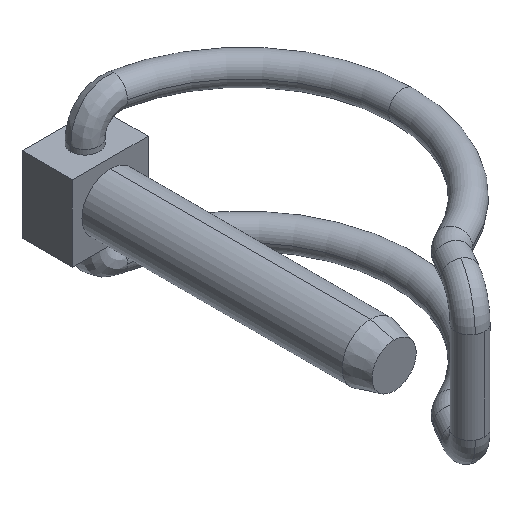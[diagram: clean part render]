
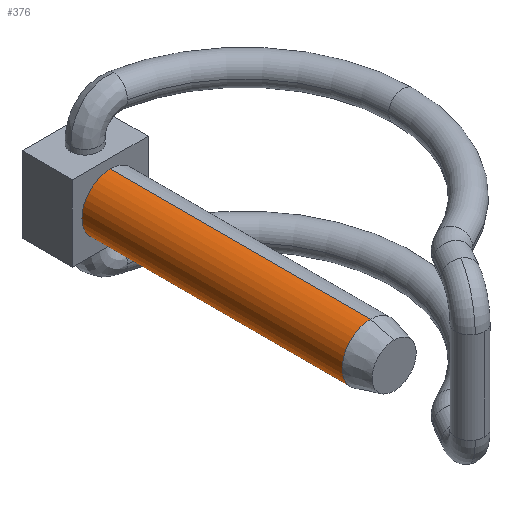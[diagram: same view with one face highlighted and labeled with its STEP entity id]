
A CAD part, isometric view. The second image highlights one B-rep face of the part: STEP entity #376.
In plain terms, the highlighted cylindrical face has radius 4 mm (diameter 8 mm), a partial arc.
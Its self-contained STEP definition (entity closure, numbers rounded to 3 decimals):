
#33 = CARTESIAN_POINT ( 'NONE',  ( 0., -40., -4. ) ) ;
#60 = DIRECTION ( 'NONE',  ( 0., 1., 0. ) ) ;
#65 = VERTEX_POINT ( 'NONE', #1688 ) ;
#148 = DIRECTION ( 'NONE',  ( 0., 0., 1. ) ) ;
#150 = CARTESIAN_POINT ( 'NONE',  ( 0., 0., -4. ) ) ;
#240 = EDGE_CURVE ( 'NONE', #627, #553, #309, .T. ) ;
#251 = AXIS2_PLACEMENT_3D ( 'NONE', #542, #290, #148 ) ;
#268 = DIRECTION ( 'NONE',  ( 0., 1., 0. ) ) ;
#279 = CIRCLE ( 'NONE', #251, 4. ) ;
#285 = CARTESIAN_POINT ( 'NONE',  ( 0., -40., 4. ) ) ;
#290 = DIRECTION ( 'NONE',  ( 0., 1., 0. ) ) ;
#309 = CIRCLE ( 'NONE', #1385, 4. ) ;
#376 = ADVANCED_FACE ( 'NONE', ( #1183 ), #1617, .T. ) ;
#403 = ORIENTED_EDGE ( 'NONE', *, *, #240, .F. ) ;
#466 = ORIENTED_EDGE ( 'NONE', *, *, #667, .T. ) ;
#511 = VECTOR ( 'NONE', #268, 1000. ) ;
#542 = CARTESIAN_POINT ( 'NONE',  ( 0., -36.683, 0. ) ) ;
#553 = VERTEX_POINT ( 'NONE', #672 ) ;
#556 = DIRECTION ( 'NONE',  ( 0., 0., 1. ) ) ;
#627 = VERTEX_POINT ( 'NONE', #150 ) ;
#667 = EDGE_CURVE ( 'NONE', #65, #553, #1129, .T. ) ;
#672 = CARTESIAN_POINT ( 'NONE',  ( 0., 0., 4. ) ) ;
#690 = VECTOR ( 'NONE', #1012, 1000. ) ;
#910 = EDGE_LOOP ( 'NONE', ( #1299, #955, #466, #403 ) ) ;
#955 = ORIENTED_EDGE ( 'NONE', *, *, #1087, .T. ) ;
#1012 = DIRECTION ( 'NONE',  ( 0., 1., 0. ) ) ;
#1087 = EDGE_CURVE ( 'NONE', #1365, #65, #279, .T. ) ;
#1129 = LINE ( 'NONE', #285, #511 ) ;
#1159 = CARTESIAN_POINT ( 'NONE',  ( 0., 0., 0. ) ) ;
#1183 = FACE_OUTER_BOUND ( 'NONE', #910, .T. ) ;
#1200 = DIRECTION ( 'NONE',  ( 0., 0., 1. ) ) ;
#1299 = ORIENTED_EDGE ( 'NONE', *, *, #1369, .F. ) ;
#1336 = CARTESIAN_POINT ( 'NONE',  ( 0., -40., 0. ) ) ;
#1365 = VERTEX_POINT ( 'NONE', #1446 ) ;
#1369 = EDGE_CURVE ( 'NONE', #1365, #627, #1600, .T. ) ;
#1385 = AXIS2_PLACEMENT_3D ( 'NONE', #1159, #1417, #556 ) ;
#1417 = DIRECTION ( 'NONE',  ( 0., 1., 0. ) ) ;
#1446 = CARTESIAN_POINT ( 'NONE',  ( 0., -36.683, -4. ) ) ;
#1600 = LINE ( 'NONE', #33, #690 ) ;
#1617 = CYLINDRICAL_SURFACE ( 'NONE', #1717, 4. ) ;
#1688 = CARTESIAN_POINT ( 'NONE',  ( 0., -36.683, 4. ) ) ;
#1717 = AXIS2_PLACEMENT_3D ( 'NONE', #1336, #60, #1200 ) ;
